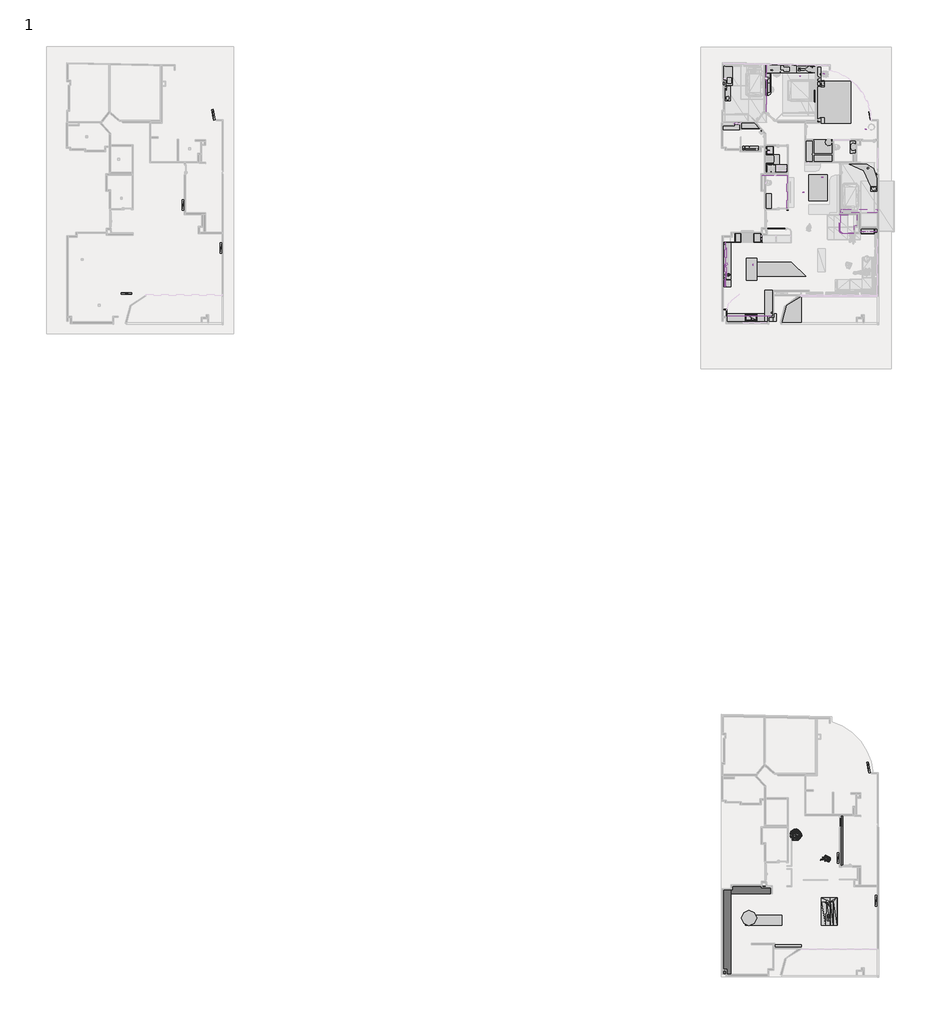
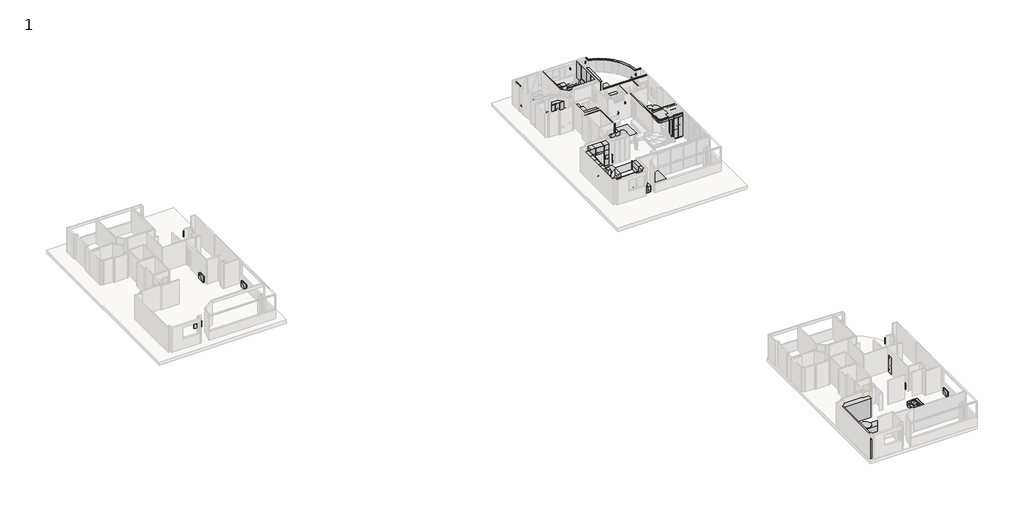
# One storey, part 9 of 11: 53 proxies, 20 light fixtures, 16 geographic elements.
"""IFC4 building model written with IfcOpenShell, lengths in millimetres."""

from ifc_helpers import new_model, si_unit, frame, origin, origin_with_axes, place, context, project, spatial, polyline, outline, extrude, faceted_brep, transform, mapped, element, save
from components import family3_family3_2d7e2772, generic_models_10_generic_models_10_2bd21c6c, generic_models_11_generic_models_11_a93a03da, generic_models_12_generic_models_12_6bda398e, generic_models_13_generic_models_13_b138730d, generic_models_14_generic_models_14_dbd2e497, generic_models_15_generic_models_15_fff12dbb, generic_models_17_generic_models_17_e36c5ee7, generic_models_18_generic_models_18_24b7fd5e, generic_models_19_generic_models_8_cfde6224, generic_models_20_generic_models_20_c8fce76b, generic_models_23_generic_models_23_d472f416, generic_models_24_generic_models_23_312cb668, generic_models_25_generic_models_23_504d38dc, generic_models_26_generic_models_23_41ab4bd3, generic_models_27_generic_models_27_d3de7ab0, generic_models_28_generic_models_27_a111f2d0, generic_models_29_generic_models_14_0a0f2d2f, generic_models_30_generic_models_30_8323e78c, generic_models_31_generic_models_31_448f4125, generic_models_32_generic_models_8_0a6a5476, generic_models_33_generic_models_8_4b093444, generic_models_35_generic_models_35_965fc304, generic_models_37_generic_models_89_ea88a495, generic_models_38_generic_models_38_3002575d, generic_models_39_generic_models_39_59178a07, generic_models_4_generic_models_4_27ab01c0, generic_models_40_generic_models_14_4b4f6101, generic_models_41_generic_models_41_221d64d7, generic_models_42_generic_models_42_749ef1b9, generic_models_43_generic_models_43_62c2da9d, generic_models_44_generic_models_43_9f6ffdae, generic_models_45_generic_models_45_e7b4b76c, generic_models_6_generic_models_2_26afa89b, generic_models_62_generic_models_62_01bbf638, generic_models_88_generic_models_89_85bccc3d, kitchen1_kitchen_40739ad4, kitchen2_kitchen_f6e05b14, light_light_89e77f11, light1_light_bb3200ce, wc_wc_13b890ef, wc2_wc_a8ddb0bd, geographic_element_00167db2, enscape_assetdefinition_dishwasher_001_enscape_6985d77f, enscape_assetdefinition_faucet_004_enscape_assetdefinition_45639300, enscape_assetdefinition_sink_007_enscape_assetdefinition_5c865419, enscape_assetdefinition_vase_018_enscape_assetdefinition_db3e343f, tempenscape_assetdefinition_armchair_lounge_area_tempenscape_c0352a05, tempenscape_assetdefinition_heater_001_tempenscape_d009f5ff, tempenscape_assetdefinition_kitchen_appliance_001_mixer_94847bc3, tempenscape_assetdefinition_sofa_056_outdoor_modular_8e18e6f5, light_fixture_878e8f6d, light_fixture_3d6168cd, light_fixture_4a1fe0db, line_line_8c0a3c7e, line_line_cc2f1739, line_line_be03ad6e, line_line_12a0ce7c, line_line_b54da9cd, line_line_39116be9, line_line_f28259de, line_line_2_29de0733, fd_7908a0ea

model = new_model("IFC4")

# Units and contexts
model_context = context("Model", 3, world=origin())
ifc_project = project(units=[si_unit("LENGTHUNIT", "METRE", prefix="MILLI")], contexts=[model_context])

# Site, building, storey
site = spatial("IfcSite", under=ifc_project)
building = spatial("IfcBuilding", under=site)
storey = spatial("IfcBuildingStorey", under=building, Name="1", Elevation=0.0)

# Proxies
placement = place(None, origin())
family3_family3_shape = family3_family3_2d7e2772(model_context)
element("IfcBuildingElementProxy", 1, Name="Family3 : Family3", ObjectType="Family3 : Family3", at=placement, inside=storey, context=model_context, shape_type="MappedRepresentation", body=[
    mapped(family3_family3_shape, transform((90061.2286607, 9691.101384, 631.0), x_axis=(0.0, 0.0, -1.0), y_axis=(1.0, 0.0, 0.0), z_axis=(0.0, -1.0, 0.0))),
])
element("IfcBuildingElementProxy", 2, Name="Family3 : Family3", ObjectType="Family3 : Family3", at=placement, inside=storey, context=model_context, shape_type="MappedRepresentation", body=[
    mapped(family3_family3_shape, transform((89795.2286607, 9691.101384, 631.0), x_axis=(0.0, 0.0, -1.0), y_axis=(1.0, 0.0, 0.0), z_axis=(0.0, -1.0, 0.0))),
])
element("IfcBuildingElementProxy", 3, Name="Family3 : Family3", ObjectType="Family3 : Family3", at=placement, inside=storey, context=model_context, shape_type="MappedRepresentation", body=[
    mapped(family3_family3_shape, transform((90061.2286607, 9223.101384, 631.0), x_axis=(0.0, 0.0, -1.0), y_axis=(-1.0, 0.0, 0.0), z_axis=(0.0, 1.0, 0.0))),
])
element("IfcBuildingElementProxy", 4, Name="Family3 : Family3", ObjectType="Family3 : Family3", at=placement, inside=storey, context=model_context, shape_type="MappedRepresentation", body=[
    mapped(family3_family3_shape, transform((89795.2286607, 9223.101384, 631.0), x_axis=(0.0, 0.0, -1.0), y_axis=(-1.0, 0.0, 0.0), z_axis=(0.0, 1.0, 0.0))),
])
element("IfcBuildingElementProxy", 5, Name="Family3 : Family3", ObjectType="Family3 : Family3", at=placement, inside=storey, context=model_context, shape_type="MappedRepresentation", body=[
    mapped(family3_family3_shape, transform((89795.2286607, 10696.1644283, 631.0), x_axis=(0.0, 0.0, -1.0), y_axis=(1.0, 0.0, 0.0), z_axis=(0.0, -1.0, 0.0))),
])
element("IfcBuildingElementProxy", 6, Name="Family3 : Family3", ObjectType="Family3 : Family3", at=placement, inside=storey, context=model_context, shape_type="MappedRepresentation", body=[
    mapped(family3_family3_shape, transform((90061.2286607, 9723.101384, 631.0), x_axis=(0.0, 0.0, -1.0), y_axis=(-1.0, 0.0, 0.0), z_axis=(0.0, 1.0, 0.0))),
])
element("IfcBuildingElementProxy", 7, Name="Family3 : Family3", ObjectType="Family3 : Family3", at=placement, inside=storey, context=model_context, shape_type="MappedRepresentation", body=[
    mapped(family3_family3_shape, transform((89795.2286607, 9723.101384, 631.0), x_axis=(0.0, 0.0, -1.0), y_axis=(-1.0, 0.0, 0.0), z_axis=(0.0, 1.0, 0.0))),
])
generic_models_10_generic_models_10_shape = generic_models_10_generic_models_10_2bd21c6c(model_context)
element("IfcBuildingElementProxy", 8, Name="Generic Models 10 : Generic Models 10", ObjectType="Generic Models 10 : Generic Models 10", at=placement, inside=storey, context=model_context, shape_type="MappedRepresentation", body=[
    mapped(generic_models_10_generic_models_10_shape, transform((0.0, 0.0, 0.0), x_axis=(1.0, 0.0, 0.0), y_axis=(0.0, 1.0, 0.0), z_axis=(0.0, 0.0, 1.0))),
])
generic_models_11_generic_models_11_shape = generic_models_11_generic_models_11_a93a03da(model_context)
element("IfcBuildingElementProxy", 9, Name="Generic Models 11 : Generic Models 11", ObjectType="Generic Models 11 : Generic Models 11", at=placement, inside=storey, context=model_context, shape_type="MappedRepresentation", body=[
    mapped(generic_models_11_generic_models_11_shape, transform((0.0, 0.0, 0.0), x_axis=(1.0, 0.0, 0.0), y_axis=(0.0, 1.0, 0.0), z_axis=(0.0, 0.0, 1.0))),
])
generic_models_12_generic_models_12_shape = generic_models_12_generic_models_12_6bda398e(model_context)
element("IfcBuildingElementProxy", 10, Name="Generic Models 12 : Generic Models 12", ObjectType="Generic Models 12 : Generic Models 12", at=placement, inside=storey, context=model_context, shape_type="MappedRepresentation", body=[
    mapped(generic_models_12_generic_models_12_shape, transform((0.0, 0.0, 0.0), x_axis=(1.0, 0.0, 0.0), y_axis=(0.0, 1.0, 0.0), z_axis=(0.0, 0.0, 1.0))),
])
generic_models_13_generic_models_13_shape = generic_models_13_generic_models_13_b138730d(model_context)
element("IfcBuildingElementProxy", 11, Name="Generic Models 13 : Generic Models 13", ObjectType="Generic Models 13 : Generic Models 13", at=placement, inside=storey, context=model_context, shape_type="MappedRepresentation", body=[
    mapped(generic_models_13_generic_models_13_shape, transform((0.0, 0.0, 0.0), x_axis=(1.0, 0.0, 0.0), y_axis=(0.0, 1.0, 0.0), z_axis=(0.0, 0.0, 1.0))),
])
generic_models_14_generic_models_14_shape = generic_models_14_generic_models_14_dbd2e497(model_context)
element("IfcBuildingElementProxy", 12, Name="Generic Models 14 : Generic Models 14", ObjectType="Generic Models 14 : Generic Models 14", at=placement, inside=storey, context=model_context, shape_type="MappedRepresentation", body=[
    mapped(generic_models_14_generic_models_14_shape, transform((0.0, 0.0, 0.0), x_axis=(1.0, 0.0, 0.0), y_axis=(0.0, 1.0, 0.0), z_axis=(0.0, 0.0, 1.0))),
])
generic_models_15_generic_models_15_shape = generic_models_15_generic_models_15_fff12dbb(model_context)
element("IfcBuildingElementProxy", 13, Name="Generic Models 15 : Generic Models 15", ObjectType="Generic Models 15 : Generic Models 15", at=placement, inside=storey, context=model_context, shape_type="MappedRepresentation", body=[
    mapped(generic_models_15_generic_models_15_shape, transform((0.0, 0.0, 0.0), x_axis=(1.0, 0.0, 0.0), y_axis=(0.0, 1.0, 0.0), z_axis=(0.0, 0.0, 1.0))),
])
generic_models_17_generic_models_17_shape = generic_models_17_generic_models_17_e36c5ee7(model_context)
element("IfcBuildingElementProxy", 14, Name="Generic Models 17 : Generic Models 17", ObjectType="Generic Models 17 : Generic Models 17", at=placement, inside=storey, context=model_context, shape_type="MappedRepresentation", body=[
    mapped(generic_models_17_generic_models_17_shape, transform((0.0, 0.0, 0.0), x_axis=(1.0, 0.0, 0.0), y_axis=(0.0, 1.0, 0.0), z_axis=(0.0, 0.0, 1.0))),
])
generic_models_18_generic_models_18_shape = generic_models_18_generic_models_18_24b7fd5e(model_context)
element("IfcBuildingElementProxy", 15, Name="Generic Models 18 : Generic Models 18", ObjectType="Generic Models 18 : Generic Models 18", at=placement, inside=storey, context=model_context, shape_type="MappedRepresentation", body=[
    mapped(generic_models_18_generic_models_18_shape, transform((0.0, 0.0, 0.0), x_axis=(1.0, 0.0, 0.0), y_axis=(0.0, 1.0, 0.0), z_axis=(0.0, 0.0, 1.0))),
])
generic_models_19_generic_models_8_shape = generic_models_19_generic_models_8_cfde6224(model_context)
element("IfcBuildingElementProxy", 16, Name="Generic Models 19 : Generic Models 8", ObjectType="Generic Models 19 : Generic Models 8", at=placement, inside=storey, context=model_context, shape_type="MappedRepresentation", body=[
    mapped(generic_models_19_generic_models_8_shape, transform((267.8492748, 9.5660455, 0.0), x_axis=(1.0, 0.0, 0.0), y_axis=(0.0, 1.0, 0.0), z_axis=(0.0, 0.0, 1.0))),
])
generic_models_20_generic_models_20_shape = generic_models_20_generic_models_20_c8fce76b(model_context)
element("IfcBuildingElementProxy", 17, Name="Generic Models 20 : Generic Models 20", ObjectType="Generic Models 20 : Generic Models 20", at=placement, inside=storey, context=model_context, shape_type="MappedRepresentation", body=[
    mapped(generic_models_20_generic_models_20_shape, transform((0.0, 0.0, 0.0), x_axis=(1.0, 0.0, 0.0), y_axis=(0.0, 1.0, 0.0), z_axis=(0.0, 0.0, 1.0))),
])
generic_models_23_generic_models_23_shape = generic_models_23_generic_models_23_d472f416(model_context)
element("IfcBuildingElementProxy", 18, Name="Generic Models 23 : Generic Models 23", ObjectType="Generic Models 23 : Generic Models 23", at=placement, inside=storey, context=model_context, shape_type="MappedRepresentation", body=[
    mapped(generic_models_23_generic_models_23_shape, transform((0.0, 0.0, 0.0), x_axis=(1.0, 0.0, 0.0), y_axis=(0.0, 1.0, 0.0), z_axis=(0.0, 0.0, 1.0))),
])
generic_models_24_generic_models_23_shape = generic_models_24_generic_models_23_312cb668(model_context)
element("IfcBuildingElementProxy", 19, Name="Generic Models 24 : Generic Models 23", ObjectType="Generic Models 24 : Generic Models 23", at=placement, inside=storey, context=model_context, shape_type="MappedRepresentation", body=[
    mapped(generic_models_24_generic_models_23_shape, transform((0.0, 0.0, 0.0), x_axis=(1.0, 0.0, 0.0), y_axis=(0.0, 1.0, 0.0), z_axis=(0.0, 0.0, 1.0))),
])
generic_models_25_generic_models_23_shape = generic_models_25_generic_models_23_504d38dc(model_context)
element("IfcBuildingElementProxy", 20, Name="Generic Models 25 : Generic Models 23", ObjectType="Generic Models 25 : Generic Models 23", at=placement, inside=storey, context=model_context, shape_type="MappedRepresentation", body=[
    mapped(generic_models_25_generic_models_23_shape, transform((0.0, 0.0, 0.0), x_axis=(1.0, 0.0, 0.0), y_axis=(0.0, 1.0, 0.0), z_axis=(0.0, 0.0, 1.0))),
])
generic_models_26_generic_models_23_shape = generic_models_26_generic_models_23_41ab4bd3(model_context)
element("IfcBuildingElementProxy", 21, Name="Generic Models 26 : Generic Models 23", ObjectType="Generic Models 26 : Generic Models 23", at=placement, inside=storey, context=model_context, shape_type="MappedRepresentation", body=[
    mapped(generic_models_26_generic_models_23_shape, transform((0.0, 0.0, 0.0), x_axis=(1.0, 0.0, 0.0), y_axis=(0.0, 1.0, 0.0), z_axis=(0.0, 0.0, 1.0))),
])
generic_models_27_generic_models_27_shape = generic_models_27_generic_models_27_d3de7ab0(model_context)
element("IfcBuildingElementProxy", 22, Name="Generic Models 27 : Generic Models 27", ObjectType="Generic Models 27 : Generic Models 27", at=placement, inside=storey, context=model_context, shape_type="MappedRepresentation", body=[
    mapped(generic_models_27_generic_models_27_shape, transform((0.0, 0.0, 0.0), x_axis=(1.0, 0.0, 0.0), y_axis=(0.0, 1.0, 0.0), z_axis=(0.0, 0.0, 1.0))),
])
generic_models_28_generic_models_27_shape = generic_models_28_generic_models_27_a111f2d0(model_context)
element("IfcBuildingElementProxy", 23, Name="Generic Models 28 : Generic Models 27", ObjectType="Generic Models 28 : Generic Models 27", at=placement, inside=storey, context=model_context, shape_type="MappedRepresentation", body=[
    mapped(generic_models_28_generic_models_27_shape, transform((0.0, 0.0, 0.0), x_axis=(1.0, 0.0, 0.0), y_axis=(0.0, 1.0, 0.0), z_axis=(0.0, 0.0, 1.0))),
])
generic_models_29_generic_models_14_shape = generic_models_29_generic_models_14_0a0f2d2f(model_context)
element("IfcBuildingElementProxy", 24, Name="Generic Models 29 : Generic Models 14", ObjectType="Generic Models 29 : Generic Models 14", at=placement, inside=storey, context=model_context, shape_type="MappedRepresentation", body=[
    mapped(generic_models_29_generic_models_14_shape, transform((0.0, 0.0, 0.0), x_axis=(1.0, 0.0, 0.0), y_axis=(0.0, 1.0, 0.0), z_axis=(0.0, 0.0, 1.0))),
])
generic_models_30_generic_models_30_shape = generic_models_30_generic_models_30_8323e78c(model_context)
element("IfcBuildingElementProxy", 25, Name="Generic Models 30 : Generic Models 30", ObjectType="Generic Models 30 : Generic Models 30", at=placement, inside=storey, context=model_context, shape_type="MappedRepresentation", body=[
    mapped(generic_models_30_generic_models_30_shape, transform((0.0, 0.0, 0.0), x_axis=(1.0, 0.0, 0.0), y_axis=(0.0, 1.0, 0.0), z_axis=(0.0, 0.0, 1.0))),
])
generic_models_31_generic_models_31_shape = generic_models_31_generic_models_31_448f4125(model_context)
element("IfcBuildingElementProxy", 26, Name="Generic Models 31 : Generic Models 31", ObjectType="Generic Models 31 : Generic Models 31", at=placement, inside=storey, context=model_context, shape_type="MappedRepresentation", body=[
    mapped(generic_models_31_generic_models_31_shape, transform((0.0, 0.0, 0.0), x_axis=(1.0, 0.0, 0.0), y_axis=(0.0, 1.0, 0.0), z_axis=(0.0, 0.0, 1.0))),
])
generic_models_32_generic_models_8_shape = generic_models_32_generic_models_8_0a6a5476(model_context)
element("IfcBuildingElementProxy", 27, Name="Generic Models 32 : Generic Models 8", ObjectType="Generic Models 32 : Generic Models 8", at=placement, inside=storey, context=model_context, shape_type="MappedRepresentation", body=[
    mapped(generic_models_32_generic_models_8_shape, transform((0.0, 0.0, 0.0), x_axis=(1.0, 0.0, 0.0), y_axis=(0.0, 1.0, 0.0), z_axis=(0.0, 0.0, 1.0))),
])
generic_models_33_generic_models_8_shape = generic_models_33_generic_models_8_4b093444(model_context)
element("IfcBuildingElementProxy", 28, Name="Generic Models 33 : Generic Models 8", ObjectType="Generic Models 33 : Generic Models 8", at=placement, inside=storey, context=model_context, shape_type="MappedRepresentation", body=[
    mapped(generic_models_33_generic_models_8_shape, transform((0.0, 0.0, 0.0), x_axis=(1.0, 0.0, 0.0), y_axis=(0.0, 1.0, 0.0), z_axis=(0.0, 0.0, 1.0))),
])
generic_models_35_generic_models_35_shape = generic_models_35_generic_models_35_965fc304(model_context)
element("IfcBuildingElementProxy", 29, Name="Generic Models 35 : Generic Models 35", ObjectType="Generic Models 35 : Generic Models 35", at=placement, inside=storey, context=model_context, shape_type="MappedRepresentation", body=[
    mapped(generic_models_35_generic_models_35_shape, transform((0.0, 0.0, 0.0), x_axis=(1.0, 0.0, 0.0), y_axis=(0.0, 1.0, 0.0), z_axis=(0.0, 0.0, 1.0))),
])
generic_models_37_generic_models_89_shape = generic_models_37_generic_models_89_ea88a495(model_context)
element("IfcBuildingElementProxy", 30, Name="Generic Models 37 : Generic Models 89", ObjectType="Generic Models 37 : Generic Models 89", at=placement, inside=storey, context=model_context, shape_type="MappedRepresentation", body=[
    mapped(generic_models_37_generic_models_89_shape, transform((0.0, 0.0, 0.0), x_axis=(1.0, 0.0, 0.0), y_axis=(0.0, 1.0, 0.0), z_axis=(0.0, 0.0, 1.0))),
])
generic_models_38_generic_models_38_shape = generic_models_38_generic_models_38_3002575d(model_context)
element("IfcBuildingElementProxy", 31, Name="Generic Models 38 : Generic Models 38", ObjectType="Generic Models 38 : Generic Models 38", at=placement, inside=storey, context=model_context, shape_type="MappedRepresentation", body=[
    mapped(generic_models_38_generic_models_38_shape, transform((0.0, 0.0, 0.0), x_axis=(1.0, 0.0, 0.0), y_axis=(0.0, 1.0, 0.0), z_axis=(0.0, 0.0, 1.0))),
])
generic_models_39_generic_models_39_shape = generic_models_39_generic_models_39_59178a07(model_context)
element("IfcBuildingElementProxy", 32, Name="Generic Models 39 : Generic Models 39", ObjectType="Generic Models 39 : Generic Models 39", at=placement, inside=storey, context=model_context, shape_type="MappedRepresentation", body=[
    mapped(generic_models_39_generic_models_39_shape, transform((0.0, 0.0, 0.0), x_axis=(1.0, 0.0, 0.0), y_axis=(0.0, 1.0, 0.0), z_axis=(0.0, 0.0, 1.0))),
])
generic_models_4_generic_models_4_shape = generic_models_4_generic_models_4_27ab01c0(model_context)
element("IfcBuildingElementProxy", 33, Name="Generic Models 4 : Generic Models 4", ObjectType="Generic Models 4 : Generic Models 4", at=placement, inside=storey, context=model_context, shape_type="MappedRepresentation", body=[
    mapped(generic_models_4_generic_models_4_shape, transform((-8.8073542, -2843.8762126, 0.0), x_axis=(1.0, 0.0, 0.0), y_axis=(0.0, 1.0, 0.0), z_axis=(0.0, 0.0, 1.0))),
])
generic_models_40_generic_models_14_shape = generic_models_40_generic_models_14_4b4f6101(model_context)
element("IfcBuildingElementProxy", 34, Name="Generic Models 40 : Generic Models 14", ObjectType="Generic Models 40 : Generic Models 14", at=placement, inside=storey, context=model_context, shape_type="MappedRepresentation", body=[
    mapped(generic_models_40_generic_models_14_shape, transform((0.0, 863.0274171, 407.4399061), x_axis=(1.0, 0.0, 0.0), y_axis=(0.0, 1.0, 0.0), z_axis=(0.0, 0.0, 1.0))),
])
generic_models_41_generic_models_41_shape = generic_models_41_generic_models_41_221d64d7(model_context)
element("IfcBuildingElementProxy", 35, Name="Generic Models 41 : Generic Models 41", ObjectType="Generic Models 41 : Generic Models 41", at=placement, inside=storey, context=model_context, shape_type="MappedRepresentation", body=[
    mapped(generic_models_41_generic_models_41_shape, transform((0.0, 0.0, 0.0), x_axis=(1.0, 0.0, 0.0), y_axis=(0.0, 1.0, 0.0), z_axis=(0.0, 0.0, 1.0))),
])
generic_models_42_generic_models_42_shape = generic_models_42_generic_models_42_749ef1b9(model_context)
element("IfcBuildingElementProxy", 36, Name="Generic Models 42 : Generic Models 42", ObjectType="Generic Models 42 : Generic Models 42", at=placement, inside=storey, context=model_context, shape_type="MappedRepresentation", body=[
    mapped(generic_models_42_generic_models_42_shape, transform((0.0, 0.0, 0.0), x_axis=(1.0, 0.0, 0.0), y_axis=(0.0, 1.0, 0.0), z_axis=(0.0, 0.0, 1.0))),
])
generic_models_43_generic_models_43_shape = generic_models_43_generic_models_43_62c2da9d(model_context)
element("IfcBuildingElementProxy", 37, Name="Generic Models 43 : Generic Models 43", ObjectType="Generic Models 43 : Generic Models 43", at=placement, inside=storey, context=model_context, shape_type="MappedRepresentation", body=[
    mapped(generic_models_43_generic_models_43_shape, transform((530.0, 265.5137901, 328.9220355), x_axis=(1.0, 0.0, 0.0), y_axis=(0.0, 1.0, 0.0), z_axis=(0.0, 0.0, 1.0))),
])
generic_models_44_generic_models_43_shape = generic_models_44_generic_models_43_9f6ffdae(model_context)
element("IfcBuildingElementProxy", 38, Name="Generic Models 44 : Generic Models 43", ObjectType="Generic Models 44 : Generic Models 43", at=placement, inside=storey, context=model_context, shape_type="MappedRepresentation", body=[
    mapped(generic_models_44_generic_models_43_shape, transform((526.9427527, 261.4289626, 0.0), x_axis=(1.0, 0.0, 0.0), y_axis=(0.0, 1.0, 0.0), z_axis=(0.0, 0.0, 1.0))),
])
generic_models_45_generic_models_45_shape = generic_models_45_generic_models_45_e7b4b76c(model_context)
element("IfcBuildingElementProxy", 39, Name="Generic Models 45 : Generic Models 45", ObjectType="Generic Models 45 : Generic Models 45", at=placement, inside=storey, context=model_context, shape_type="MappedRepresentation", body=[
    mapped(generic_models_45_generic_models_45_shape, transform((0.0, 0.0, 100.0), x_axis=(1.0, 0.0, 0.0), y_axis=(0.0, 1.0, 0.0), z_axis=(0.0, 0.0, 1.0))),
])
element("IfcBuildingElementProxy", 40, Name="Generic Models 46 : Generic Models 14", ObjectType="Generic Models 46 : Generic Models 14", at=placement, inside=storey, context=model_context, shape_type="MappedRepresentation", body=[
    mapped(generic_models_40_generic_models_14_shape, transform((0.0, 1153.2032228, 407.4399061), x_axis=(1.0, 0.0, 0.0), y_axis=(0.0, 1.0, 0.0), z_axis=(0.0, 0.0, 1.0))),
])
element("IfcBuildingElementProxy", 41, Name="Generic Models 47 : Generic Models 14", ObjectType="Generic Models 47 : Generic Models 14", at=placement, inside=storey, context=model_context, shape_type="MappedRepresentation", body=[
    mapped(generic_models_40_generic_models_14_shape, transform((0.0, 1440.8790285, 407.4399061), x_axis=(1.0, 0.0, 0.0), y_axis=(0.0, 1.0, 0.0), z_axis=(0.0, 0.0, 1.0))),
])
element("IfcBuildingElementProxy", 42, Name="Generic Models 48 : Generic Models 14", ObjectType="Generic Models 48 : Generic Models 14", at=placement, inside=storey, context=model_context, shape_type="MappedRepresentation", body=[
    mapped(generic_models_40_generic_models_14_shape, transform((0.0, 1728.5548342, 407.4399061), x_axis=(1.0, 0.0, 0.0), y_axis=(0.0, 1.0, 0.0), z_axis=(0.0, 0.0, 1.0))),
])
element("IfcBuildingElementProxy", 43, Name="Generic Models 50 : Generic Models 4", ObjectType="Generic Models 50 : Generic Models 4", at=placement, inside=storey, context=model_context, shape_type="MappedRepresentation", body=[
    mapped(generic_models_4_generic_models_4_shape, transform((0.0, 0.0, 0.0), x_axis=(1.0, 0.0, 0.0), y_axis=(0.0, 1.0, 0.0), z_axis=(0.0, 0.0, 1.0))),
])
generic_models_6_generic_models_2_shape = generic_models_6_generic_models_2_26afa89b(model_context)
element("IfcBuildingElementProxy", 44, Name="Generic Models 6 : Generic Models 2", ObjectType="Generic Models 6 : Generic Models 2", at=placement, inside=storey, context=model_context, shape_type="MappedRepresentation", body=[
    mapped(generic_models_6_generic_models_2_shape, transform((0.0, 0.0, 0.0), x_axis=(1.0, 0.0, 0.0), y_axis=(0.0, 1.0, 0.0), z_axis=(0.0, 0.0, 1.0))),
])
generic_models_62_generic_models_62_shape = generic_models_62_generic_models_62_01bbf638(model_context)
element("IfcBuildingElementProxy", 45, Name="Generic Models 62 : Generic Models 62", ObjectType="Generic Models 62 : Generic Models 62", at=placement, inside=storey, context=model_context, shape_type="MappedRepresentation", body=[
    mapped(generic_models_62_generic_models_62_shape, transform((0.0, 0.0, 0.0), x_axis=(1.0, 0.0, 0.0), y_axis=(0.0, 1.0, 0.0), z_axis=(0.0, 0.0, 1.0))),
])
element("IfcBuildingElementProxy", 46, Name="Generic Models 7 : Generic Models 3", ObjectType="Generic Models 7 : Generic Models 3", at=placement, inside=storey, context=model_context, shape_type="SolidModel", body=[
    faceted_brep([(94025.0491725, 9416.7154867, 750.0), (92925.0491725, 10516.7154867, 750.0), (90199.5455637, 10516.7154867, 750.0), (90199.5455637, 9416.7154867, 750.0), (93663.7898245, 9609.0389061, 650.0), (90223.5455637, 9609.0389061, 650.0), (90223.5455637, 10324.3920674, 650.0), (92948.4366633, 10324.3920674, 650.0), (92992.2064601, 10166.7154867, 650.0), (93392.2064601, 9766.7154867, 650.0), (94025.0491725, 9416.7154867, 0.0), (92925.0491725, 10516.7154867, 0.0), (92895.0491725, 10516.7154867, 0.0), (92895.0491725, 10516.7154867, 720.0), (90223.5455637, 10516.7154867, 720.0), (90223.5455637, 10516.7154867, 4.0), (90199.5455637, 10516.7154867, 4.0), (93995.0491725, 9416.7154867, 0.0), (90199.5455637, 9416.7154867, 4.0), (90223.5455637, 9416.7154867, 4.0), (90223.5455637, 9416.7154867, 720.0), (93995.0491725, 9416.7154867, 720.0), (93392.2064601, 9766.7154867, 0.0), (92992.2064601, 10166.7154867, 0.0)], [[[0, 1, 2, 3]], [[4, 5, 6, 7, 8, 9]], [[1, 0, 10, 11]], [[11, 12, 13, 14, 15, 16, 2, 1]], [[17, 10, 0, 3, 18, 19, 20, 21]], [[19, 15, 14, 6, 5, 20]], [[2, 16, 18, 3]], [[15, 19, 18, 16]], [[10, 17, 22, 23, 12, 11]], [[14, 13, 7, 6]], [[23, 22, 9, 8]], [[22, 17, 21, 4, 9]], [[12, 23, 8, 7, 13]], [[5, 4, 21, 20]]]),
    faceted_brep([(90199.5455637, 10522.8303414, 0.0), (90199.5455637, 10522.8303414, 754.0), (90199.5455637, 9414.8303414, 754.0), (90199.5455637, 9414.8303414, 0.0), (90199.5455637, 9216.6887559, 0.0), (90199.5455637, 9216.6887559, 800.0), (90199.5455637, 10716.7518002, 800.0), (90199.5455637, 10716.7518002, 0.0), (90223.5455637, 10522.8303414, 754.0), (90223.5455637, 9414.8303414, 754.0), (90223.5455637, 9414.8303414, 0.0), (90223.5455637, 10522.8303414, 0.0), (90223.5455637, 10816.7518002, 0.0), (90223.5455637, 10816.7518002, 900.0), (90223.5455637, 9116.6887559, 900.0), (90223.5455637, 9116.6887559, 0.0), (89503.5455637, 9216.6887559, 0.0), (89423.5455637, 9146.6887559, 0.0), (89423.5455637, 9146.6887559, 870.0), (89503.5455637, 9216.6887559, 800.0), (89423.5455637, 9116.6887559, 0.0), (89423.5455637, 9116.6887559, 900.0), (89423.5455637, 10816.7518002, 900.0), (89423.5455637, 10816.7518002, 0.0), (89423.5455637, 10786.7518002, 0.0), (89423.5455637, 10786.7518002, 870.0), (89503.5455637, 10716.7518002, 800.0), (89503.5455637, 10716.7518002, 0.0)], [[[0, 1, 2, 3, 4, 5, 6, 7]], [[2, 1, 8, 9]], [[10, 9, 8, 11, 12, 13, 14, 15]], [[16, 17, 18, 19]], [[17, 20, 21, 22, 23, 24, 25, 18]], [[20, 15, 14, 21]], [[16, 19, 5, 4]], [[19, 18, 25, 26]], [[22, 21, 14, 13]], [[19, 26, 6, 5]], [[25, 24, 27, 26]], [[23, 22, 13, 12]], [[26, 27, 7, 6]], [[12, 11, 0, 7, 27, 24, 23]], [[1, 0, 11, 8]], [[3, 2, 9, 10]], [[3, 10, 15, 20, 17, 16, 4]]]),
    extrude(outline(polyline([(89519.5455637, 9216.6887559), (89519.5455637, 10716.7518002), (90199.5455637, 10716.7518002), (90199.5455637, 9216.6887559), (89519.5455637, 9216.6887559)])), frame((0.0, 0.0, 245.2), z_axis=(0.0, 0.0, 1.0), x_axis=(1.0, 0.0, 0.0)), (0.0, 0.0, 1.0), 50.0),
    extrude(outline(polyline([(90169.5455637, 9216.6887559), (90169.5455637, 10716.7518002), (90199.5455637, 10716.7518002), (90199.5455637, 9216.6887559), (90169.5455637, 9216.6887559)])), origin_with_axes(), (0.0, 0.0, 1.0), 500.0),
])
generic_models_88_generic_models_89_shape = generic_models_88_generic_models_89_85bccc3d(model_context)
element("IfcBuildingElementProxy", 47, Name="Generic Models 88 : Generic Models 89", ObjectType="Generic Models 88 : Generic Models 89", at=placement, inside=storey, context=model_context, shape_type="MappedRepresentation", body=[
    mapped(generic_models_88_generic_models_89_shape, transform((29243.1519334, 29119.7343439, -80.0), x_axis=(1.0, 0.0, 0.0), y_axis=(0.0, 1.0, 0.0), z_axis=(0.0, 0.0, 1.0))),
])
kitchen1_kitchen_shape = kitchen1_kitchen_40739ad4(model_context)
element("IfcBuildingElementProxy", 48, Name="kitchen1 : kitchen", ObjectType="kitchen1 : kitchen", at=placement, inside=storey, context=model_context, shape_type="MappedRepresentation", body=[
    mapped(kitchen1_kitchen_shape, transform((0.0, 0.0, 0.0), x_axis=(1.0, 0.0, 0.0), y_axis=(0.0, 1.0, 0.0), z_axis=(0.0, 0.0, 1.0))),
])
kitchen2_kitchen_shape = kitchen2_kitchen_f6e05b14(model_context)
element("IfcBuildingElementProxy", 49, Name="kitchen2 : kitchen", ObjectType="kitchen2 : kitchen", at=placement, inside=storey, context=model_context, shape_type="MappedRepresentation", body=[
    mapped(kitchen2_kitchen_shape, transform((0.0, 0.0, 0.0), x_axis=(1.0, 0.0, 0.0), y_axis=(0.0, 1.0, 0.0), z_axis=(0.0, 0.0, 1.0))),
])
light_light_shape = light_light_89e77f11(model_context)
element("IfcBuildingElementProxy", 50, Name="light : light", ObjectType="light : light", at=placement, inside=storey, context=model_context, shape_type="MappedRepresentation", body=[
    mapped(light_light_shape, transform((0.0, 0.0, 0.0), x_axis=(1.0, 0.0, 0.0), y_axis=(0.0, 1.0, 0.0), z_axis=(0.0, 0.0, 1.0))),
])
light1_light_shape = light1_light_bb3200ce(model_context)
element("IfcBuildingElementProxy", 51, Name="light1 : light", ObjectType="light1 : light", at=placement, inside=storey, context=model_context, shape_type="MappedRepresentation", body=[
    mapped(light1_light_shape, transform((0.0, 0.0, 0.0), x_axis=(1.0, 0.0, 0.0), y_axis=(0.0, 1.0, 0.0), z_axis=(0.0, 0.0, 1.0))),
])
wc_wc_shape = wc_wc_13b890ef(model_context)
element("IfcBuildingElementProxy", 52, Name="wc : wc", ObjectType="wc : wc", at=placement, inside=storey, context=model_context, shape_type="MappedRepresentation", body=[
    mapped(wc_wc_shape, transform((0.0, 0.0, 0.0), x_axis=(1.0, 0.0, 0.0), y_axis=(0.0, 1.0, 0.0), z_axis=(0.0, 0.0, 1.0))),
])
wc2_wc_shape = wc2_wc_a8ddb0bd(model_context)
element("IfcBuildingElementProxy", 53, Name="wc2 : wc", ObjectType="wc2 : wc", at=placement, inside=storey, context=model_context, shape_type="MappedRepresentation", body=[
    mapped(wc2_wc_shape, transform((0.0, 0.0, 0.0), x_axis=(1.0, 0.0, 0.0), y_axis=(0.0, 1.0, 0.0), z_axis=(0.0, 0.0, 1.0))),
])

# Geographic elements
geographic_element_shape = geographic_element_00167db2(model_context)
element("IfcGeographicElement", 54, ObjectType="Enscape AssetDefinition - Elsje 001 Sitting : Enscape AssetDefinition - Elsje 001 Sitting", at=placement, inside=storey, context=model_context, shape_type="MappedRepresentation", body=[
    mapped(geographic_element_shape, transform((95714.2352823, -35959.1888995, 0.0), x_axis=(0.0, -1.0, 0.0), y_axis=(1.0, 0.0, 0.0), z_axis=(0.0, 0.0, 1.0))),
])
enscape_assetdefinition_dishwasher_001_enscape_shape = enscape_assetdefinition_dishwasher_001_enscape_6985d77f(model_context)
element("IfcGeographicElement", 55, ObjectType="Enscape AssetDefinition - Dishwasher 001 : Enscape AssetDefinition - Dishwasher 001", at=placement, inside=storey, context=model_context, shape_type="MappedRepresentation", body=[
    mapped(enscape_assetdefinition_dishwasher_001_enscape_shape, transform((90570.0220654, 5899.4379573, -52.5), x_axis=(-1.0, 0.0, 0.0), y_axis=(0.0, -1.0, 0.0), z_axis=(0.0, 0.0, 1.0))),
])
enscape_assetdefinition_faucet_004_enscape_assetdefinition_shape = enscape_assetdefinition_faucet_004_enscape_assetdefinition_45639300(model_context)
element("IfcGeographicElement", 56, ObjectType="Enscape AssetDefinition - Faucet 004 : Enscape AssetDefinition - Faucet 004", at=placement, inside=storey, context=model_context, shape_type="MappedRepresentation", body=[
    mapped(enscape_assetdefinition_faucet_004_enscape_assetdefinition_shape, transform((89805.0220654, 5929.4379573, 900.0), x_axis=(-1.0, 0.0, 0.0), y_axis=(0.0, -1.0, 0.0), z_axis=(0.0, 0.0, 1.0))),
])
enscape_assetdefinition_sink_007_enscape_assetdefinition_shape = enscape_assetdefinition_sink_007_enscape_assetdefinition_5c865419(model_context)
element("IfcGeographicElement", 57, ObjectType="Enscape AssetDefinition - Sink 007 : Enscape AssetDefinition - Sink 007", at=placement, inside=storey, context=model_context, shape_type="MappedRepresentation", body=[
    mapped(enscape_assetdefinition_sink_007_enscape_assetdefinition_shape, transform((89795.0220654, 6159.713032, 900.0), x_axis=(-1.0, 0.0, 0.0), y_axis=(0.0, -1.0, 0.0), z_axis=(0.0, 0.0, 1.0))),
])
enscape_assetdefinition_vase_018_enscape_assetdefinition_shape = enscape_assetdefinition_vase_018_enscape_assetdefinition_db3e343f(model_context)
element("IfcGeographicElement", 58, ObjectType="Enscape AssetDefinition - Vase 018 : Enscape AssetDefinition - Vase 018", at=placement, inside=storey, context=model_context, shape_type="MappedRepresentation", body=[
    mapped(enscape_assetdefinition_vase_018_enscape_assetdefinition_shape, transform((87829.7655707, 10341.5826469, 1521.5396094), x_axis=(1.0, 0.0, 0.0), y_axis=(0.0, 1.0, 0.0), z_axis=(0.0, 0.0, 1.0))),
])
tempenscape_assetdefinition_armchair_lounge_area_tempenscape_shape = tempenscape_assetdefinition_armchair_lounge_area_tempenscape_c0352a05(model_context)
element("IfcGeographicElement", 59, ObjectType="TempEnscape AssetDefinition - Armchair Lounge Area : TempEnscape AssetDefinition - Armchair Lounge Area", at=placement, inside=storey, context=model_context, shape_type="MappedRepresentation", body=[
    mapped(tempenscape_assetdefinition_armchair_lounge_area_tempenscape_shape, transform((93251.1780421, -34034.5556151, 0.0), x_axis=(0.906307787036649, 0.42261826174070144, 0.0), y_axis=(-0.42261826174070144, 0.906307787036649, 0.0), z_axis=(0.0, 0.0, 1.0))),
])
tempenscape_assetdefinition_heater_001_tempenscape_shape = tempenscape_assetdefinition_heater_001_tempenscape_d009f5ff(model_context)
element("IfcGeographicElement", 60, ObjectType="TempEnscape AssetDefinition - Heater 001 : TempEnscape AssetDefinition - Heater 001", at=placement, inside=storey, context=model_context, shape_type="MappedRepresentation", body=[
    mapped(tempenscape_assetdefinition_heater_001_tempenscape_shape, transform((41171.9479258, 8143.1550647, 0.0), x_axis=(1.0, 0.0, 0.0), y_axis=(0.0, 1.0, 0.0), z_axis=(0.0, 0.0, 1.0))),
])
element("IfcGeographicElement", 61, ObjectType="TempEnscape AssetDefinition - Heater 001 : TempEnscape AssetDefinition - Heater 001", at=placement, inside=storey, context=model_context, shape_type="MappedRepresentation", body=[
    mapped(tempenscape_assetdefinition_heater_001_tempenscape_shape, transform((48459.1043164, 11614.5259381, 0.0), x_axis=(0.0, 1.0, 0.0), y_axis=(-1.0, 0.0, 0.0), z_axis=(0.0, 0.0, 1.0))),
])
element("IfcGeographicElement", 62, ObjectType="TempEnscape AssetDefinition - Heater 001 : TempEnscape AssetDefinition - Heater 001", at=placement, inside=storey, context=model_context, shape_type="MappedRepresentation", body=[
    mapped(tempenscape_assetdefinition_heater_001_tempenscape_shape, transform((45503.359081, 14954.4281393, 0.0), x_axis=(0.0, 1.0, 0.0), y_axis=(-1.0, 0.0, 0.0), z_axis=(0.0, 0.0, 1.0))),
])
element("IfcGeographicElement", 63, ObjectType="TempEnscape AssetDefinition - Heater 001 : TempEnscape AssetDefinition - Heater 001", at=placement, inside=storey, context=model_context, shape_type="MappedRepresentation", body=[
    mapped(tempenscape_assetdefinition_heater_001_tempenscape_shape, transform((47860.5722854, 21968.7599689, 0.0), x_axis=(-0.1911697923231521, 0.9815569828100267, 0.0), y_axis=(-0.9815569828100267, -0.1911697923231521, 0.0), z_axis=(0.0, 0.0, 1.0))),
])
element("IfcGeographicElement", 64, ObjectType="TempEnscape AssetDefinition - Heater 001 : TempEnscape AssetDefinition - Heater 001", at=placement, inside=storey, context=model_context, shape_type="MappedRepresentation", body=[
    mapped(tempenscape_assetdefinition_heater_001_tempenscape_shape, transform((92171.9479258, -42650.4619741, 0.0), x_axis=(1.0, 0.0, 0.0), y_axis=(0.0, 1.0, 0.0), z_axis=(0.0, 0.0, 1.0))),
])
element("IfcGeographicElement", 65, ObjectType="TempEnscape AssetDefinition - Heater 001 : TempEnscape AssetDefinition - Heater 001", at=placement, inside=storey, context=model_context, shape_type="MappedRepresentation", body=[
    mapped(tempenscape_assetdefinition_heater_001_tempenscape_shape, transform((99459.1043164, -39179.0911008, 0.0), x_axis=(0.0, 1.0, 0.0), y_axis=(-1.0, 0.0, 0.0), z_axis=(0.0, 0.0, 1.0))),
])
element("IfcGeographicElement", 66, ObjectType="TempEnscape AssetDefinition - Heater 001 : TempEnscape AssetDefinition - Heater 001", at=placement, inside=storey, context=model_context, shape_type="MappedRepresentation", body=[
    mapped(tempenscape_assetdefinition_heater_001_tempenscape_shape, transform((96503.359081, -35839.1888995, 0.0), x_axis=(0.0, 1.0, 0.0), y_axis=(-1.0, 0.0, 0.0), z_axis=(0.0, 0.0, 1.0))),
])
element("IfcGeographicElement", 67, ObjectType="TempEnscape AssetDefinition - Heater 001 : TempEnscape AssetDefinition - Heater 001", at=placement, inside=storey, context=model_context, shape_type="MappedRepresentation", body=[
    mapped(tempenscape_assetdefinition_heater_001_tempenscape_shape, transform((98860.5722854, -28824.8570699, 0.0), x_axis=(-0.1911697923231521, 0.9815569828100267, 0.0), y_axis=(-0.9815569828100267, -0.1911697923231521, 0.0), z_axis=(0.0, 0.0, 1.0))),
])
tempenscape_assetdefinition_kitchen_appliance_001_mixer_shape = tempenscape_assetdefinition_kitchen_appliance_001_mixer_94847bc3(model_context)
element("IfcGeographicElement", 68, ObjectType="TempEnscape AssetDefinition - Kitchen Appliance 001 Mixer : TempEnscape AssetDefinition - Kitchen Appliance 001 Mixer", at=placement, inside=storey, context=model_context, shape_type="MappedRepresentation", body=[
    mapped(tempenscape_assetdefinition_kitchen_appliance_001_mixer_shape, transform((87942.8142829, 9514.9335121, 903.8888586), x_axis=(0.0, 1.0, 0.0), y_axis=(-1.0, 0.0, 0.0), z_axis=(0.0, 0.0, 1.0))),
])
tempenscape_assetdefinition_sofa_056_outdoor_modular_shape = tempenscape_assetdefinition_sofa_056_outdoor_modular_8e18e6f5(model_context)
element("IfcGeographicElement", 69, ObjectType="TempEnscape AssetDefinition - Sofa 056 Outdoor Modular : TempEnscape AssetDefinition - Sofa 056 Outdoor Modular", at=placement, inside=storey, context=model_context, shape_type="MappedRepresentation", body=[
    mapped(tempenscape_assetdefinition_sofa_056_outdoor_modular_shape, transform((95863.359081, -40000.4619741, 0.0), x_axis=(0.0, -1.0, 0.0), y_axis=(1.0, 0.0, 0.0), z_axis=(0.0, 0.0, 1.0))),
])

# Light fixtures
light_fixture_shape = light_fixture_878e8f6d(model_context)
element("IfcLightFixture", 70, ObjectType="Nooraneh_Multi Track_Silva Pendant 40 : Nooraneh_Multi Track_Silva Pendant_D 40mm_ies(39 R PC-PCP_LDT)_5.5w@80.50lm/w", at=placement, inside=storey, context=model_context, shape_type="MappedRepresentation", body=[
    mapped(light_fixture_shape, transform((89924.7550564, 10293.097388, 2627.5479286), x_axis=(-1.0, 0.0, 0.0), y_axis=(0.0, 1.0, 0.0), z_axis=(0.0, 0.0, -1.0))),
])
light_fixture_2_shape = light_fixture_3d6168cd(model_context)
element("IfcLightFixture", 71, ObjectType="Nooraneh_Slide 1 : Nooraneh_Slide", at=placement, inside=storey, context=model_context, shape_type="MappedRepresentation", body=[
    mapped(light_fixture_2_shape, transform((93844.6185569, 15942.9811177, 2843.2829588), x_axis=(-0.2588190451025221, -0.965925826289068, 0.0), y_axis=(-0.965925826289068, 0.2588190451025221, 0.0), z_axis=(0.0, 0.0, -1.0))),
])
element("IfcLightFixture", 72, ObjectType="Nooraneh_Slide 1 : Nooraneh_Slide", at=placement, inside=storey, context=model_context, shape_type="MappedRepresentation", body=[
    mapped(light_fixture_2_shape, transform((95321.1086231, 17128.3670162, 2843.2829588), x_axis=(-0.9876883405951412, -0.15643446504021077, 0.0), y_axis=(-0.15643446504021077, 0.9876883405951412, 0.0), z_axis=(0.0, 0.0, -1.0))),
])
element("IfcLightFixture", 73, ObjectType="Nooraneh_Slide 1 : Nooraneh_Slide", at=placement, inside=storey, context=model_context, shape_type="MappedRepresentation", body=[
    mapped(light_fixture_2_shape, transform((98710.0191755, 20837.4712323, 2843.2829588), x_axis=(0.2588190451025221, 0.965925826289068, 0.0), y_axis=(0.965925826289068, -0.2588190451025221, 0.0), z_axis=(0.0, 0.0, -1.0))),
])
element("IfcLightFixture", 74, ObjectType="Nooraneh_Slide 1 : Nooraneh_Slide", at=placement, inside=storey, context=model_context, shape_type="MappedRepresentation", body=[
    mapped(light_fixture_2_shape, transform((93596.7509124, 24973.1834182, 2843.2829588), x_axis=(0.258819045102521, 0.9659258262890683, 0.0), y_axis=(0.9659258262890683, -0.258819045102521, 0.0), z_axis=(0.0, 0.0, -1.0))),
])
element("IfcLightFixture", 75, ObjectType="Nooraneh_Slide 1 : Nooraneh_Slide", at=placement, inside=storey, context=model_context, shape_type="MappedRepresentation", body=[
    mapped(light_fixture_2_shape, transform((95416.4584353, 25175.5739936, 2843.2829588), x_axis=(-0.25881904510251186, -0.9659258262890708, 0.0), y_axis=(-0.9659258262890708, 0.25881904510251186, 0.0), z_axis=(0.0, 0.0, -1.0))),
])
light_fixture_3_shape = light_fixture_4a1fe0db(model_context)
element("IfcLightFixture", 76, ObjectType="Nooraneh_Slide : Nooraneh_Slide_Nooraneh_NU 60 20 R PCT_LDT_10w123Lm/w", at=placement, inside=storey, context=model_context, shape_type="MappedRepresentation", body=[
    mapped(light_fixture_3_shape, transform((93868.0067508, 15936.9552908, 2827.5479286), x_axis=(-1.0, 0.0, 0.0), y_axis=(0.0, 1.0, 0.0), z_axis=(0.0, 0.0, -1.0))),
])
element("IfcLightFixture", 77, ObjectType="Nooraneh_Slide : Nooraneh_Slide_Nooraneh_NU 60 20 R PCT_LDT_10w123Lm/w", at=placement, inside=storey, context=model_context, shape_type="MappedRepresentation", body=[
    mapped(light_fixture_3_shape, transform((98686.6309815, 20843.4970592, 2827.5479286), x_axis=(1.0, 0.0, 0.0), y_axis=(0.0, -1.0, 0.0), z_axis=(0.0, 0.0, -1.0))),
])
element("IfcLightFixture", 78, ObjectType="Nooraneh_Slide : Nooraneh_Slide_Nooraneh_NU 60 20 R PCT_LDT_10w123Lm/w", at=placement, inside=storey, context=model_context, shape_type="MappedRepresentation", body=[
    mapped(light_fixture_3_shape, transform((93573.3627184, 24979.2092451, 2827.5479286), x_axis=(1.0, 0.0, 0.0), y_axis=(0.0, -1.0, 0.0), z_axis=(0.0, 0.0, -1.0))),
])
element("IfcLightFixture", 79, ObjectType="Nooraneh_Slide : Nooraneh_Slide_Nooraneh_NU 60 20 R PCT_LDT_10w123Lm/w", at=placement, inside=storey, context=model_context, shape_type="MappedRepresentation", body=[
    mapped(light_fixture_3_shape, transform((95325.1165919, 17104.5499133, 2827.5479286), x_axis=(-0.40673664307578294, 0.9135454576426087, 0.0), y_axis=(0.9135454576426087, 0.40673664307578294, 0.0), z_axis=(0.0, 0.0, -1.0))),
])
element("IfcLightFixture", 80, ObjectType="Nooraneh_Slide : Nooraneh_Slide_Nooraneh_NU 60 20 R PCT_LDT_10w123Lm/w", at=placement, inside=storey, context=model_context, shape_type="MappedRepresentation", body=[
    mapped(light_fixture_3_shape, transform((95439.8466293, 25169.5481667, 2827.5479286), x_axis=(-1.0, 0.0, 0.0), y_axis=(0.0, 1.0, 0.0), z_axis=(0.0, 0.0, -1.0))),
])
line_line_shape = line_line_8c0a3c7e(model_context)
element("IfcLightFixture", 81, ObjectType="Line : Line", at=placement, inside=storey, context=model_context, shape_type="MappedRepresentation", body=[
    mapped(line_line_shape, transform((87838.5455637, 8615.0873768, 1898.9680553), x_axis=(0.0, 1.0, 0.0), y_axis=(1.0, 0.0, 0.0), z_axis=(0.0, 0.0, -1.0))),
])
line_line_2_shape = line_line_cc2f1739(model_context)
element("IfcLightFixture", 82, ObjectType="Line : Line", at=placement, inside=storey, context=model_context, shape_type="MappedRepresentation", body=[
    mapped(line_line_2_shape, transform((99586.5820716, 12886.0304058, 2845.0479286), x_axis=(-1.0, 0.0, 0.0), y_axis=(0.0, 0.0, -1.0), z_axis=(0.0, -1.0, 0.0))),
])
line_line_3_shape = line_line_be03ad6e(model_context)
element("IfcLightFixture", 83, ObjectType="Line : Line", at=placement, inside=storey, context=model_context, shape_type="MappedRepresentation", body=[
    mapped(line_line_3_shape, transform((90957.8275518, 22190.2722605, 2847.7621784), x_axis=(0.0, 1.0, 0.0), y_axis=(0.0, 0.0, -1.0), z_axis=(-1.0, 0.0, 0.0))),
])
line_line_4_shape = line_line_12a0ce7c(model_context)
element("IfcLightFixture", 84, ObjectType="Line : Line", at=placement, inside=storey, context=model_context, shape_type="MappedRepresentation", body=[
    mapped(line_line_4_shape, transform((98339.1043164, 12923.5308762, 97.3469012), x_axis=(0.0, 0.0, 1.0), y_axis=(0.0, -1.0, 0.0), z_axis=(1.0, 0.0, 0.0))),
])
line_line_5_shape = line_line_b54da9cd(model_context)
element("IfcLightFixture", 85, ObjectType="Line : Line", at=placement, inside=storey, context=model_context, shape_type="MappedRepresentation", body=[
    mapped(line_line_5_shape, transform((99379.1043164, 12978.5259381, 2496.40865), x_axis=(0.0, 0.0, -1.0), y_axis=(0.0, -1.0, 0.0), z_axis=(-1.0, 0.0, 0.0))),
])
line_line_6_shape = line_line_39116be9(model_context)
element("IfcLightFixture", 86, ObjectType="Line : Line", at=placement, inside=storey, context=model_context, shape_type="MappedRepresentation", body=[
    mapped(line_line_6_shape, transform((87763.985489, 8609.5826469, 1502.6177202), x_axis=(0.0, 1.0, 0.0), y_axis=(1.0, 0.0, 0.0), z_axis=(0.0, 0.0, -1.0))),
])
line_line_7_shape = line_line_f28259de(model_context)
element("IfcLightFixture", 87, ObjectType="Line : Line", at=placement, inside=storey, context=model_context, shape_type="MappedRepresentation", body=[
    mapped(line_line_7_shape, transform((94266.5859385, 8214.6339771, 45.2268316), x_axis=(0.0, 0.0, 1.0), y_axis=(-1.0, 0.0, 0.0), z_axis=(0.0, -1.0, 0.0))),
])
line_line_2_2_shape = line_line_2_29de0733(model_context)
element("IfcLightFixture", 88, ObjectType="Line : Line 2", at=placement, inside=storey, context=model_context, shape_type="MappedRepresentation", body=[
    mapped(line_line_2_2_shape, transform((91333.0360243, 6309.713032, 2751.2504701), x_axis=(-1.0, 0.0, 0.0), y_axis=(0.0, 0.0, -1.0), z_axis=(0.0, -1.0, 0.0))),
])
fd_shape = fd_7908a0ea(model_context)
element("IfcLightFixture", 89, ObjectType="Nooraneh_Multi Track_Verona : fd", at=placement, inside=storey, context=model_context, shape_type="MappedRepresentation", body=[
    mapped(fd_shape, transform((90971.2032326, 23614.7635844, 1555.125601), x_axis=(0.0, -1.0, 0.0), y_axis=(0.0, 0.0, -1.0), z_axis=(1.0, 0.0, 0.0))),
])

save(model, "model.ifc")
